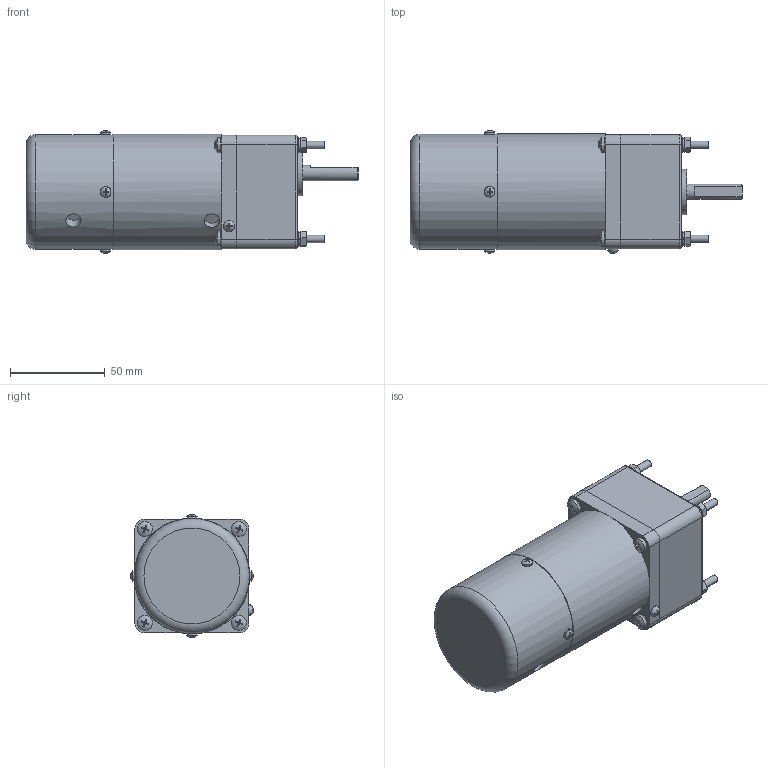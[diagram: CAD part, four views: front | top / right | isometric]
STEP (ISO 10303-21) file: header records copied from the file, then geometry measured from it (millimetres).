
FILE_DESCRIPTION(/* description */ (''),/* implementation_level */ '2;1');
FILE_NAME(/* name */ '60矮箱T-6W刹车.stp',/* time_stamp */ '2022-10-31T08:08:06+08:00',/* author */ (''),/* organization */ (''),/* preprocessor_version */ 'ST-DEVELOPER v16.7',/* originating_system */ 'SIEMENS PLM Software NX 1899',/* authorisation */ '');
FILE_SCHEMA (('AP203_CONFIGURATION_CONTROLLED_3D_DESIGN_OF_MECHANICAL_PARTS_AND_ASSEMBLIES_MIM_LF { 1 0 10303 403 2 1 2}'));
Length unit declared in the file: millimetre
Products named in the file (1): yf186188FEB6lbvy
Bounding box: 175 x 64.82 x 64.66 mm (x, y, z)
Volume: 442178.5 mm3; surface area: 52728.3 mm2
Topology: 22 solids, 23 shells, 454 faces, 1076 edges, 684 vertices
Faces by surface type: plane 209, bspline 84, cylinder 83, cone 61, torus 11, sphere 6
Full cylindrical faces by diameter (mm): 3 x1, 3.432 x4, 3.838 x4, 4 x4, 4.3 x8, 5.5 x4, 5.6 x4, 6 x5, 8 x14, 8.2 x1, 24 x1, 52.6 x1, 57 x2, 60.5 x1, 61 x1
Entity records: 14602 total; most frequent: CARTESIAN_POINT 4196, ORIENTED_EDGE 1954, DIRECTION 1608, EDGE_CURVE 977, VERTEX_POINT 666, AXIS2_PLACEMENT_3D 658, EDGE_LOOP 599, ADVANCED_FACE 454
